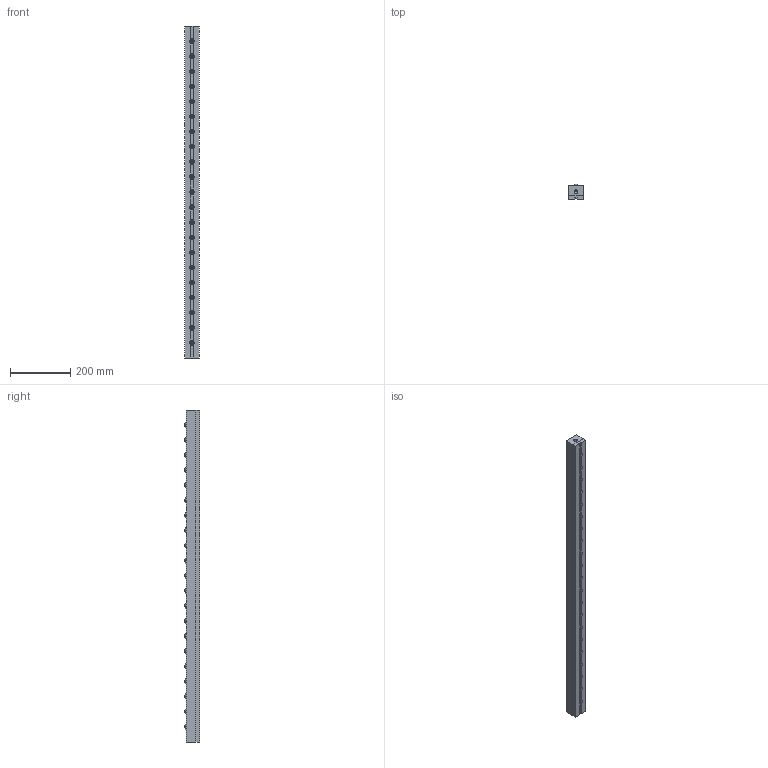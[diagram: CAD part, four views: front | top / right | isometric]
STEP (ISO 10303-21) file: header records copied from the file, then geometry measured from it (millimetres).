
FILE_DESCRIPTION (( 'STEP AP203' ), '1' );
FILE_NAME ('PVL55SH-21.STEP', '2016-02-18T08:49:16', ( '' ), ( '' ), 'SwSTEP 2.0', 'SolidWorks 2013', '' );
FILE_SCHEMA (( 'CONFIG_CONTROL_DESIGN' ));
Length unit declared in the file: millimetre
Products named in the file (1): PVL55SH-21
Bounding box: 49 x 50 x 1100 mm (x, y, z)
Volume: 2332653.7 mm3; surface area: 375637 mm2
Topology: 2 solids, 2 shells, 904 faces, 1948 edges, 1304 vertices
Faces by surface type: cylinder 522, plane 336, sphere 42, cone 4
Entity records: 25297 total; most frequent: DIRECTION 4972, CARTESIAN_POINT 4155, ORIENTED_EDGE 3892, AXIS2_PLACEMENT_3D 2121, EDGE_CURVE 1946, VERTEX_POINT 1304, CIRCLE 1216, EDGE_LOOP 1170
